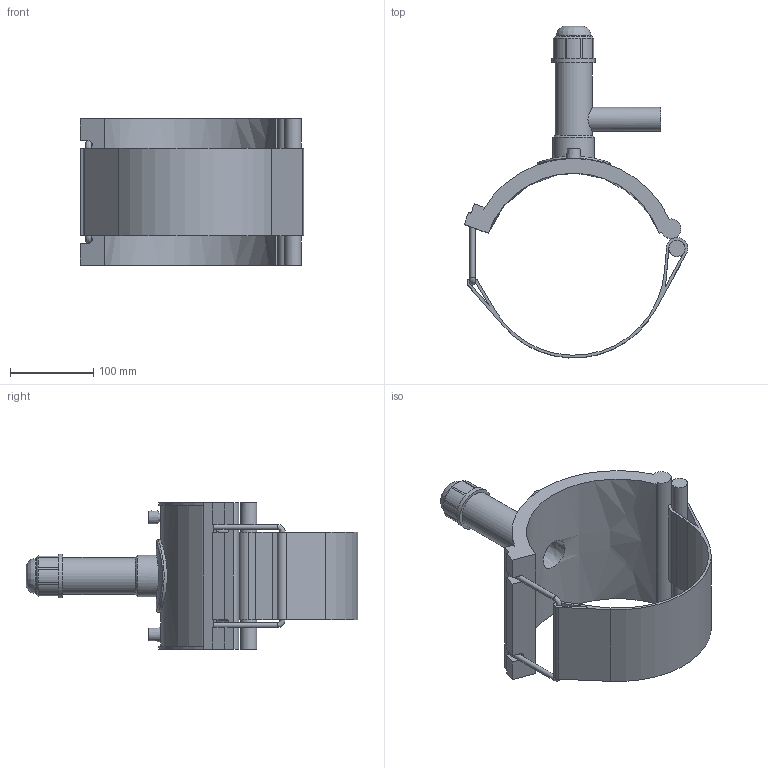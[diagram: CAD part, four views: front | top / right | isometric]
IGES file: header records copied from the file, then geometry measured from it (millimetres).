
Global section: file name: 5963BU03080010.ipt; native system: Autodesk Inventor 2019; preprocessor: unknown; author: KIM; date: 20210830.101511; units: millimetre
Bounding box: 268.63 x 398.85 x 176.02 mm (x, y, z)
Volume: 1305831.8 mm3; surface area: 304396.1 mm2
Topology: 2 solids, 2 shells, 122 faces, 304 edges, 195 vertices
Faces by surface type: plane 69, cylinder 29, revolution 12, cone 11, bspline 1
Full cylindrical faces by diameter (mm): 4 x2, 6.124 x2, 19.347 x1, 28.45 x1, 41.99 x1, 44.615 x1, 49.864 x1, 52.488 x1, 87.48 x1
